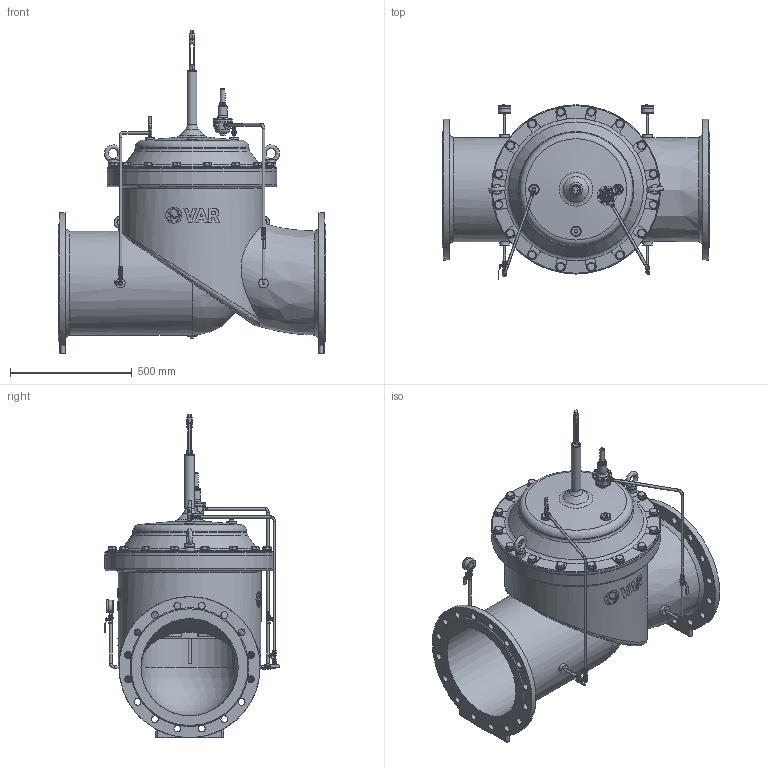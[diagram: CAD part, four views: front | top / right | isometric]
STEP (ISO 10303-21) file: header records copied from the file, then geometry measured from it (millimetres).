
FILE_DESCRIPTION(('STEP AP242'), '1');
FILE_NAME('PICO C200', '', ('UNSPECIFIED'), ('UNSPECIFIED'), 'C3D Converter', 'C3D Toolkit', '');
FILE_SCHEMA(('AP242_MANAGED_MODEL_BASED_3D_ENGINEERING_MIM_LF { 1 0 10303 442 1 1 4 }'));
Length unit declared in the file: millimetre
Products named in the file (26): М; ВР.752218.002
Assembly tree (77 placements, depth 3):
  (unnamed)
    (unnamed)
    (unnamed)
    (unnamed)
    (unnamed)
    (unnamed)
    (unnamed)
    (unnamed)
    М  x2
    (unnamed)
    (unnamed)  x4
    ВР.752218.002  x2
    (unnamed)  x6
    (unnamed)
    (unnamed)  x4
    (unnamed)
    (unnamed)
      (unnamed)
      (unnamed)
      (unnamed)  x8
      (unnamed)
    (unnamed)
    (unnamed)  x2
    (unnamed)  x2
    (unnamed)  x16
    (unnamed)  x16
Bounding box: 1100 x 720 x 1330 mm (x, y, z)
Volume: 69764396.5 mm3; surface area: 8717516 mm2
Topology: 83 solids, 85 shells, 3217 faces, 8030 edges, 5209 vertices
Faces by surface type: plane 1793, cylinder 691, cone 412, extrusion 119, torus 103, bspline 88, sphere 11
Full cylindrical faces by diameter (mm): 0.518 x2, 1.2 x1, 2.5 x2, 3 x8, 4 x25, 4.2 x4, 4.5 x4, 5 x2, 6 x8, 7 x8, 8 x5, 8.7 x1, 9 x16, 9.3 x6, 9.5 x2, 10 x4, 10.2 x4, 10.8 x2, 11 x18, 11.16 x4, 11.179 x6, 11.22 x4, 11.4 x2, 11.577 x2, 12 x10, 12.5 x3, 12.573 x15, 13.157 x2, 13.8 x4, 14.4 x5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
Entity records: 119326 total; most frequent: CARTESIAN_POINT 68051, ORIENTED_EDGE 8162, DIRECTION 7523, EDGE_CURVE 4081, VERTEX_POINT 2945, AXIS2_PLACEMENT_3D 2833, EDGE_LOOP 2536, FACE_BOUND 1968
